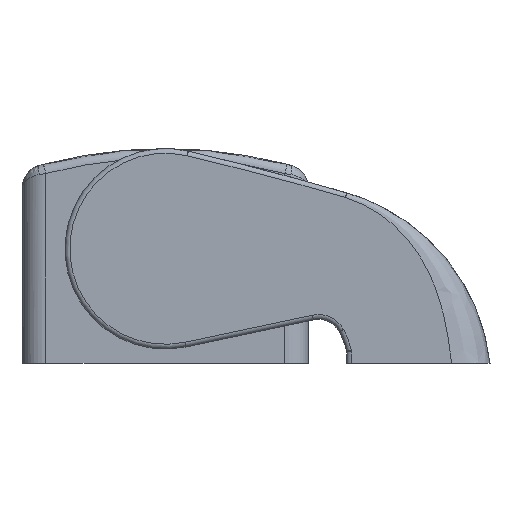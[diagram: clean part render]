
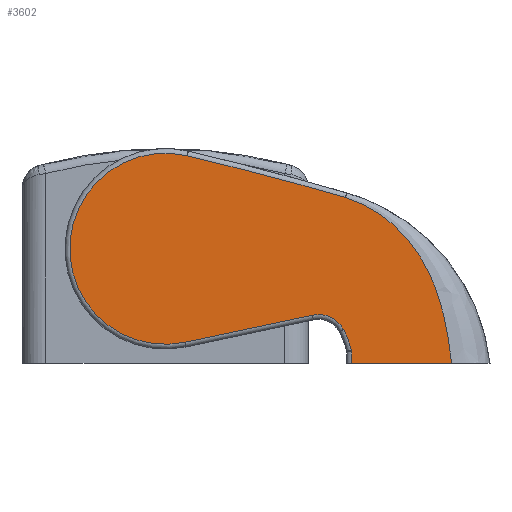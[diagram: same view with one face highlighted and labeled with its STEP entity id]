
A CAD part, front view. The second image highlights one B-rep face of the part: STEP entity #3602.
In plain terms, the highlighted planar face has unit normal (0, -1, 0).
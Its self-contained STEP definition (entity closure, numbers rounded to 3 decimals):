
#1724=CARTESIAN_POINT('',(18.667,-50.3,3.544));
#1725=VERTEX_POINT('',#1724);
#1726=CARTESIAN_POINT('',(15.404,-50.3,5.051));
#1727=VERTEX_POINT('',#1726);
#1728=CARTESIAN_POINT('',(16.028,-50.3,2.116));
#1729=DIRECTION('',(0.0,-1.0,0.0));
#1730=DIRECTION('',(0.0,0.0,1.0));
#1731=AXIS2_PLACEMENT_3D('',#1728,#1729,#1730);
#1732=CIRCLE('',#1731,3.);
#1733=EDGE_CURVE('',#1725,#1727,#1732,.T.);
#1779=CARTESIAN_POINT('',(2.079,-50.3,2.219));
#1780=VERTEX_POINT('',#1779);
#1788=CARTESIAN_POINT('',(2.296,-50.3,21.733));
#1789=VERTEX_POINT('',#1788);
#1790=CARTESIAN_POINT('',(0.0,-50.3,12.));
#1791=DIRECTION('',(0.0,1.0,0.0));
#1792=DIRECTION('',(0.0,0.0,1.0));
#1793=AXIS2_PLACEMENT_3D('',#1790,#1791,#1792);
#1794=CIRCLE('',#1793,10.);
#1795=EDGE_CURVE('',#1780,#1789,#1794,.T.);
#2284=CARTESIAN_POINT('',(29.975,-50.3,0.0));
#2285=VERTEX_POINT('',#2284);
#2323=CARTESIAN_POINT('',(19.5,-50.3,0.0));
#2324=VERTEX_POINT('',#2323);
#2325=CARTESIAN_POINT('',(29.975,-50.3,0.0));
#2326=DIRECTION('',(-1.0,0.0,0.0));
#2327=VECTOR('',#2326,10.475);
#2328=LINE('',#2325,#2327);
#2329=EDGE_CURVE('',#2285,#2324,#2328,.T.);
#3528=CARTESIAN_POINT('',(13.128,-50.3,-2.312));
#3529=DIRECTION('',(0.0,-1.0,0.0));
#3530=DIRECTION('',(0.0,0.0,-1.0));
#3531=AXIS2_PLACEMENT_3D('',#3528,#3529,#3530);
#3532=PLANE('',#3531);
#3533=ORIENTED_EDGE('',*,*,#2329,.F.);
#3534=CARTESIAN_POINT('',(18.86,-50.3,17.37));
#3535=VERTEX_POINT('',#3534);
#3536=CARTESIAN_POINT('',(18.86,-50.3,17.37));
#3537=CARTESIAN_POINT('',(20.893,-50.3,16.778));
#3538=CARTESIAN_POINT('',(22.739,-50.3,15.639));
#3539=CARTESIAN_POINT('',(24.24,-50.3,14.2));
#3540=CARTESIAN_POINT('',(24.991,-50.3,13.48));
#3541=CARTESIAN_POINT('',(25.658,-50.3,12.686));
#3542=CARTESIAN_POINT('',(26.239,-50.3,11.85));
#3543=CARTESIAN_POINT('',(26.819,-50.3,11.014));
#3544=CARTESIAN_POINT('',(27.313,-50.3,10.136));
#3545=CARTESIAN_POINT('',(27.728,-50.3,9.241));
#3546=CARTESIAN_POINT('',(28.143,-50.3,8.347));
#3547=CARTESIAN_POINT('',(28.48,-50.3,7.438));
#3548=CARTESIAN_POINT('',(28.756,-50.3,6.531));
#3549=CARTESIAN_POINT('',(29.031,-50.3,5.624));
#3550=CARTESIAN_POINT('',(29.244,-50.3,4.72));
#3551=CARTESIAN_POINT('',(29.416,-50.3,3.827));
#3552=CARTESIAN_POINT('',(29.588,-50.3,2.934));
#3553=CARTESIAN_POINT('',(29.72,-50.3,2.052));
#3554=CARTESIAN_POINT('',(29.833,-50.3,1.178));
#3555=CARTESIAN_POINT('',(29.883,-50.3,0.784));
#3556=CARTESIAN_POINT('',(29.93,-50.3,0.392));
#3557=CARTESIAN_POINT('',(29.975,-50.3,0.0));
#3558=B_SPLINE_CURVE_WITH_KNOTS('',3,(#3536,#3537,#3538,#3539,#3540,#3541,#3542,#3543,#3544,#3545,#3546,#3547,#3548,#3549,#3550,#3551,#3552,#3553,#3554,#3555,#3556,#3557),.UNSPECIFIED.,.F.,.U.,(4,3,3,3,3,3,3,4),(0.0,0.268,0.403,0.537,0.671,0.805,0.94,1.0),.UNSPECIFIED.);
#3559=EDGE_CURVE('',#3535,#2285,#3558,.T.);
#3560=ORIENTED_EDGE('',*,*,#3559,.F.);
#3561=CARTESIAN_POINT('',(-73.731,-50.3,-300.538));
#3562=DIRECTION('',(0.0,1.0,0.0));
#3563=DIRECTION('',(0.0,0.0,1.0));
#3564=AXIS2_PLACEMENT_3D('',#3561,#3562,#3563);
#3565=CIRCLE('',#3564,331.117);
#3566=EDGE_CURVE('',#1789,#3535,#3565,.T.);
#3567=ORIENTED_EDGE('',*,*,#3566,.F.);
#3568=ORIENTED_EDGE('',*,*,#1795,.F.);
#3569=CARTESIAN_POINT('',(15.404,-50.3,5.051));
#3570=DIRECTION('',(-0.978,0.0,-0.208));
#3571=VECTOR('',#3570,13.623);
#3572=LINE('',#3569,#3571);
#3573=EDGE_CURVE('',#1727,#1780,#3572,.T.);
#3574=ORIENTED_EDGE('',*,*,#3573,.F.);
#3575=ORIENTED_EDGE('',*,*,#1733,.F.);
#3576=CARTESIAN_POINT('',(19.48,-50.3,1.377));
#3577=VERTEX_POINT('',#3576);
#3578=CARTESIAN_POINT('',(11.19,-50.3,-0.5));
#3579=DIRECTION('',(0.0,-1.0,0.0));
#3580=DIRECTION('',(0.0,0.0,1.0));
#3581=AXIS2_PLACEMENT_3D('',#3578,#3579,#3580);
#3582=CIRCLE('',#3581,8.5);
#3583=EDGE_CURVE('',#3577,#1725,#3582,.T.);
#3584=ORIENTED_EDGE('',*,*,#3583,.F.);
#3585=CARTESIAN_POINT('',(19.5,-50.3,1.2));
#3586=VERTEX_POINT('',#3585);
#3587=CARTESIAN_POINT('',(18.7,-50.3,1.2));
#3588=DIRECTION('',(0.0,-1.0,0.0));
#3589=DIRECTION('',(0.0,0.0,1.0));
#3590=AXIS2_PLACEMENT_3D('',#3587,#3588,#3589);
#3591=CIRCLE('',#3590,0.8);
#3592=EDGE_CURVE('',#3586,#3577,#3591,.T.);
#3593=ORIENTED_EDGE('',*,*,#3592,.F.);
#3594=CARTESIAN_POINT('',(19.5,-50.3,0.0));
#3595=DIRECTION('',(0.0,0.0,1.0));
#3596=VECTOR('',#3595,1.2);
#3597=LINE('',#3594,#3596);
#3598=EDGE_CURVE('',#2324,#3586,#3597,.T.);
#3599=ORIENTED_EDGE('',*,*,#3598,.F.);
#3600=EDGE_LOOP('',(#3533,#3560,#3567,#3568,#3574,#3575,#3584,#3593,#3599));
#3601=FACE_OUTER_BOUND('',#3600,.T.);
#3602=ADVANCED_FACE('',(#3601),#3532,.T.);
